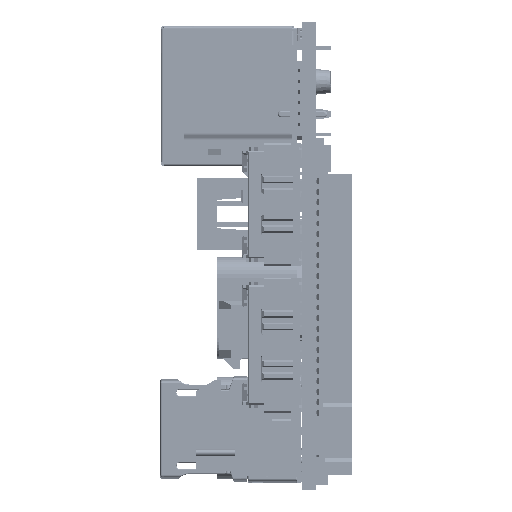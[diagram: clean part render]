
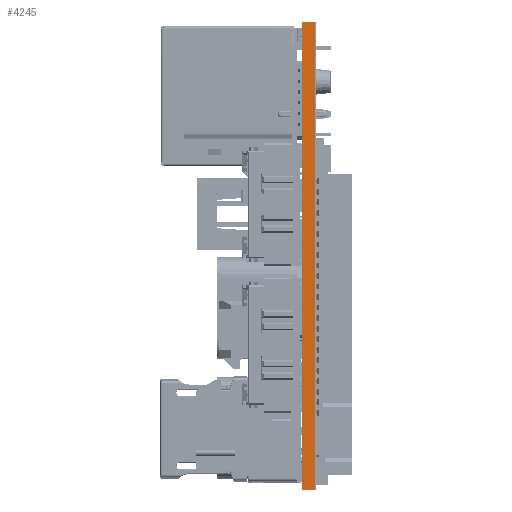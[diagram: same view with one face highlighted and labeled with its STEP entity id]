
A CAD part, left-side view. The second image highlights one B-rep face of the part: STEP entity #4245.
In plain terms, the highlighted planar face has unit normal (-1, 0, 0).
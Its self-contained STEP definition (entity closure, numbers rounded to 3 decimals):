
#188=DIRECTION('',(0.,0.,1.));
#189=VECTOR('',#188,56.5);
#190=CARTESIAN_POINT('',(0.,-0.8,-56.5));
#191=LINE('',#190,#189);
#1167=DIRECTION('',(0.,0.,1.));
#1168=VECTOR('',#1167,56.5);
#1169=CARTESIAN_POINT('',(0.,0.8,-56.5));
#1170=LINE('',#1169,#1168);
#2036=DIRECTION('',(0.,1.,0.));
#2037=VECTOR('',#2036,1.6);
#2038=CARTESIAN_POINT('',(0.,-0.8,0.));
#2039=LINE('',#2038,#2037);
#2135=DIRECTION('',(0.,1.,0.));
#2136=VECTOR('',#2135,1.6);
#2137=CARTESIAN_POINT('',(0.,-0.8,-56.5));
#2138=LINE('',#2137,#2136);
#2610=CARTESIAN_POINT('',(0.,-0.8,-56.5));
#2611=CARTESIAN_POINT('',(0.,-0.8,0.));
#2612=VERTEX_POINT('',#2610);
#2613=VERTEX_POINT('',#2611);
#2618=CARTESIAN_POINT('',(0.,0.8,-56.5));
#2619=CARTESIAN_POINT('',(0.,0.8,0.));
#2620=VERTEX_POINT('',#2618);
#2621=VERTEX_POINT('',#2619);
#4234=CARTESIAN_POINT('',(0.,-0.8,-56.5));
#4235=DIRECTION('',(-1.,0.,0.));
#4236=DIRECTION('',(0.,0.,1.));
#4237=AXIS2_PLACEMENT_3D('',#4234,#4235,#4236);
#4238=PLANE('',#4237);
#4239=ORIENTED_EDGE('',*,*,#3067,.F.);
#4240=ORIENTED_EDGE('',*,*,#3930,.T.);
#4241=ORIENTED_EDGE('',*,*,#3459,.T.);
#4242=ORIENTED_EDGE('',*,*,#4116,.F.);
#4243=EDGE_LOOP('',(#4239,#4240,#4241,#4242));
#4244=FACE_OUTER_BOUND('',#4243,.F.);
#4245=ADVANCED_FACE('',(#4244),#4238,.T.);
#3067=EDGE_CURVE('',#2612,#2613,#191,.T.);
#3459=EDGE_CURVE('',#2620,#2621,#1170,.T.);
#3930=EDGE_CURVE('',#2612,#2620,#2138,.T.);
#4116=EDGE_CURVE('',#2613,#2621,#2039,.T.);
